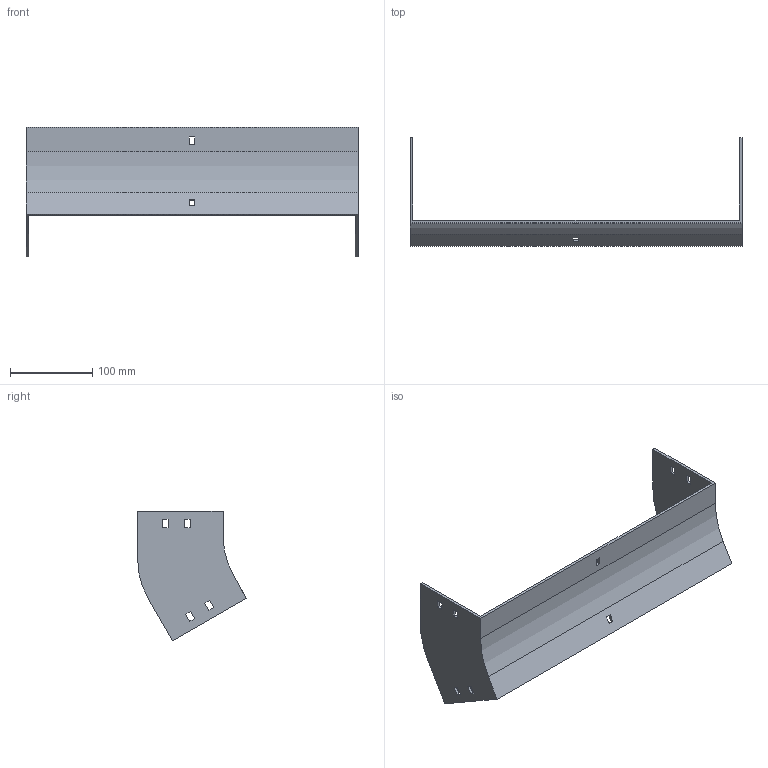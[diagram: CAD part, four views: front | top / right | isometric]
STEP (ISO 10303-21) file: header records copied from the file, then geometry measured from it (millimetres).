
FILE_DESCRIPTION (( 'STEP AP214' ), '1' );
FILE_NAME ('35F1D400.step', '2025-02-21T12:49:00', ( '' ), ( '' ), 'SwSTEP 2.0', 'SolidWorks 2023', '' );
FILE_SCHEMA (( 'AUTOMOTIVE_DESIGN' ));
Length unit declared in the file: millimetre
Products named in the file (1): 35F1D400
Bounding box: 404 x 132.4 x 157.98 mm (x, y, z)
Volume: 258008.1 mm3; surface area: 154007.4 mm2
Topology: 1 solids, 1 shells, 58 faces, 168 edges, 112 vertices
Faces by surface type: plane 54, cylinder 4
Entity records: 1943 total; most frequent: CARTESIAN_POINT 339, ORIENTED_EDGE 336, DIRECTION 294, EDGE_CURVE 168, LINE 160, VECTOR 160, VERTEX_POINT 112, EDGE_LOOP 78
